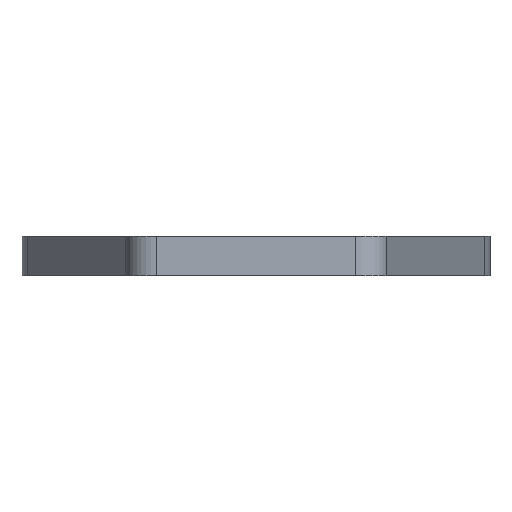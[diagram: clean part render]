
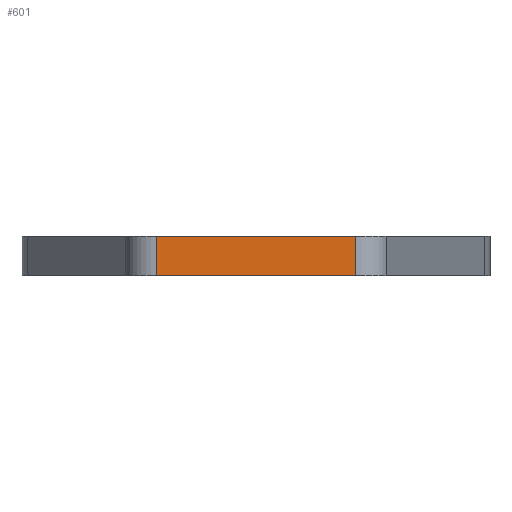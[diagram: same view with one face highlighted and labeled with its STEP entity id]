
A CAD part, front view. The second image highlights one B-rep face of the part: STEP entity #601.
In plain terms, the highlighted planar face has unit normal (0, -1, 0).
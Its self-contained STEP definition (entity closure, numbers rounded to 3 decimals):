
#98 = ORIENTED_EDGE ( 'NONE', *, *, #1495, .T. ) ;
#339 = EDGE_CURVE ( 'NONE', #2262, #510, #2098, .T. ) ;
#411 = DIRECTION ( 'NONE',  ( 0., 0., 1. ) ) ;
#418 = ORIENTED_EDGE ( 'NONE', *, *, #873, .T. ) ;
#426 = LINE ( 'NONE', #968, #1431 ) ;
#492 = LINE ( 'NONE', #1802, #959 ) ;
#510 = VERTEX_POINT ( 'NONE', #1252 ) ;
#534 = AXIS2_PLACEMENT_3D ( 'NONE', #2214, #1981, #411 ) ;
#582 = CARTESIAN_POINT ( 'NONE',  ( 31.93, -170., 0. ) ) ;
#601 = ADVANCED_FACE ( 'NONE', ( #2412 ), #982, .F. ) ;
#790 = CARTESIAN_POINT ( 'NONE',  ( -31.93, -170., 12.7 ) ) ;
#810 = LINE ( 'NONE', #790, #1280 ) ;
#873 = EDGE_CURVE ( 'NONE', #2262, #1416, #810, .T. ) ;
#894 = CARTESIAN_POINT ( 'NONE',  ( -31.93, -170., 12.7 ) ) ;
#959 = VECTOR ( 'NONE', #1370, 1000. ) ;
#968 = CARTESIAN_POINT ( 'NONE',  ( -40., -170., 0. ) ) ;
#982 = PLANE ( 'NONE',  #534 ) ;
#1100 = DIRECTION ( 'NONE',  ( 0., 0., -1. ) ) ;
#1158 = CARTESIAN_POINT ( 'NONE',  ( -40., -170., 12.7 ) ) ;
#1252 = CARTESIAN_POINT ( 'NONE',  ( 31.93, -170., 12.7 ) ) ;
#1280 = VECTOR ( 'NONE', #1100, 1000. ) ;
#1370 = DIRECTION ( 'NONE',  ( 0., 0., 1. ) ) ;
#1416 = VERTEX_POINT ( 'NONE', #2373 ) ;
#1431 = VECTOR ( 'NONE', #1773, 1000. ) ;
#1478 = EDGE_LOOP ( 'NONE', ( #1903, #418, #1744, #98 ) ) ;
#1495 = EDGE_CURVE ( 'NONE', #2551, #510, #492, .T. ) ;
#1503 = VECTOR ( 'NONE', #2354, 1000. ) ;
#1744 = ORIENTED_EDGE ( 'NONE', *, *, #2477, .T. ) ;
#1773 = DIRECTION ( 'NONE',  ( 1., 0., 0. ) ) ;
#1802 = CARTESIAN_POINT ( 'NONE',  ( 31.93, -170., 12.7 ) ) ;
#1903 = ORIENTED_EDGE ( 'NONE', *, *, #339, .F. ) ;
#1981 = DIRECTION ( 'NONE',  ( 0., 1., 0. ) ) ;
#2098 = LINE ( 'NONE', #1158, #1503 ) ;
#2214 = CARTESIAN_POINT ( 'NONE',  ( -40., -170., 12.7 ) ) ;
#2262 = VERTEX_POINT ( 'NONE', #894 ) ;
#2354 = DIRECTION ( 'NONE',  ( 1., 0., 0. ) ) ;
#2373 = CARTESIAN_POINT ( 'NONE',  ( -31.93, -170., 0. ) ) ;
#2412 = FACE_OUTER_BOUND ( 'NONE', #1478, .T. ) ;
#2477 = EDGE_CURVE ( 'NONE', #1416, #2551, #426, .T. ) ;
#2551 = VERTEX_POINT ( 'NONE', #582 ) ;
